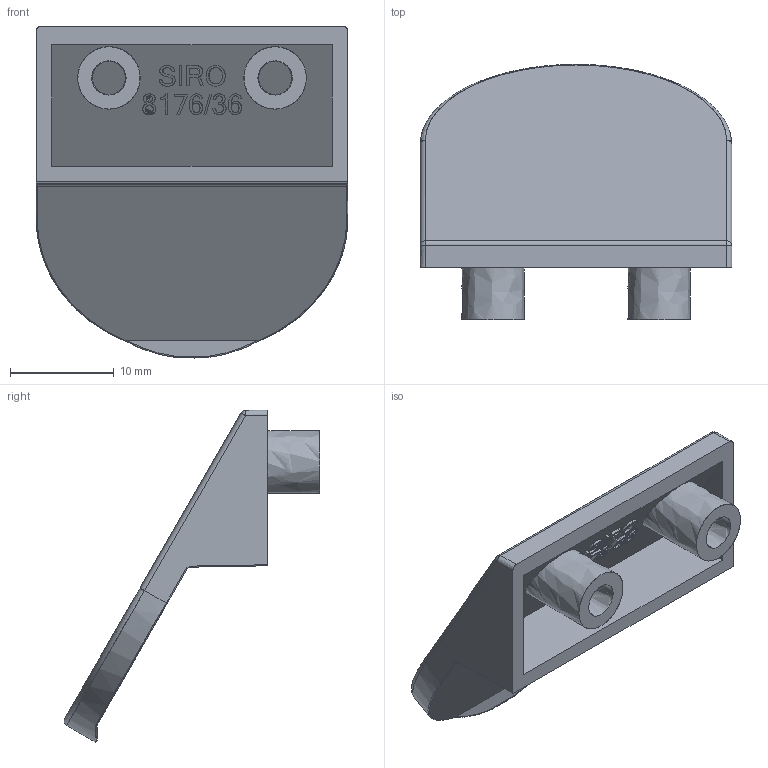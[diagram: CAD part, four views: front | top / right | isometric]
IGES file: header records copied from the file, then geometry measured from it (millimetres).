
Start section: C
Global section: file name: 8176-36.igs; native system: By Siemens PLM Incorporated; preprocessor: XPlus GENERIC/IGES 16.0.42; author: Author; organization: Title; date: 20231119.122229; units: millimetre
Bounding box: 30 x 24.63 x 31.97 mm (x, y, z)
Surface area: 3256 mm2 (no closed solid volume)
Topology: 0 solids, 0 shells, 176 faces, 942 edges, 942 vertices
Faces by surface type: bspline 176
